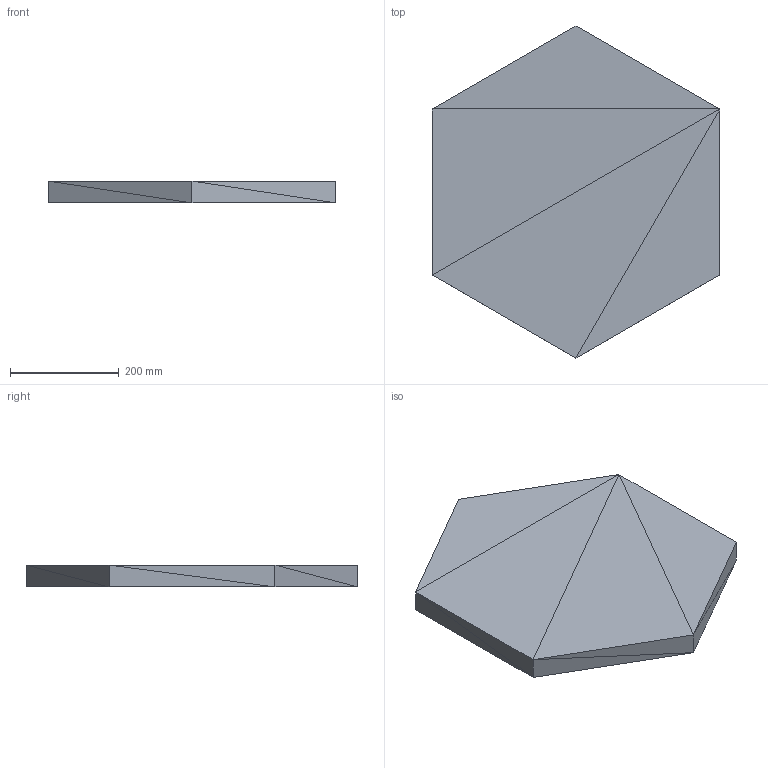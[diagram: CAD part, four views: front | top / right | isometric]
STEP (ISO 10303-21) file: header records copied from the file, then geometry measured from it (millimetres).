
FILE_DESCRIPTION(('ISINAC STEP AP214'),'2;1');
FILE_NAME('ISINAC_HEX.305_40mm_ADHESIVO','2026-05-03T10:49:19',('ISINAC'),('www.isinac.com'),'ISINAC BIM Generator 1.0','','');
FILE_SCHEMA(('AUTOMOTIVE_DESIGN'));
Length unit declared in the file: millimetre
Products named in the file (1): ISINAC_HEX.305_40mm_ADHESIVO
Bounding box: 528.28 x 610 x 40 mm (x, y, z)
Surface area: 556572 mm2 (no closed solid volume)
Topology: 0 solids, 20 shells, 20 faces, 60 edges, 60 vertices
Faces by surface type: plane 20
Entity records: 233 total; most frequent: CARTESIAN_POINT 80, DIRECTION 40, POLY_LOOP 20, FACE_OUTER_BOUND 20, AXIS2_PLACEMENT_3D 20, PLANE 20, FACE_SURFACE 20, CLOSED_SHELL 1
